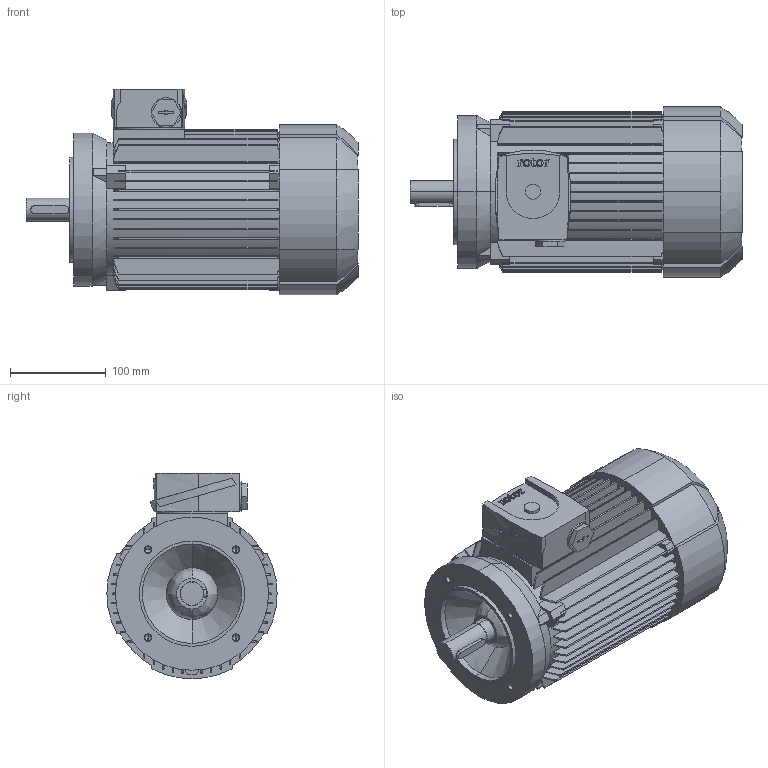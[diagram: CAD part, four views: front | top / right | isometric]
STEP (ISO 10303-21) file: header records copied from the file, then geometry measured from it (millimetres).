
FILE_DESCRIPTION (( 'STEP AP214' ), '1' );
FILE_NAME ('6RN90S04E20 IM3601 FT130.STEP', '2014-09-22T06:41:36', ( 'rbc_ict' ), ( 'REGAL' ), 'SwSTEP 2.0', 'SolidWorks 2012', '' );
FILE_SCHEMA (( 'AUTOMOTIVE_DESIGN' ));
Length unit declared in the file: millimetre
Products named in the file (1): 6RN90S04E20 IM3601 FT130
Bounding box: 347 x 178 x 215 mm (x, y, z)
Volume: 5806757.5 mm3; surface area: 446888.3 mm2
Topology: 1 solids, 1 shells, 612 faces, 1741 edges, 1147 vertices
Faces by surface type: plane 330, bspline 133, cylinder 127, cone 22
Entity records: 23348 total; most frequent: CARTESIAN_POINT 8066, ORIENTED_EDGE 3466, DIRECTION 2865, EDGE_CURVE 1733, VERTEX_POINT 1147, AXIS2_PLACEMENT_3D 968, VECTOR 929, LINE 929
